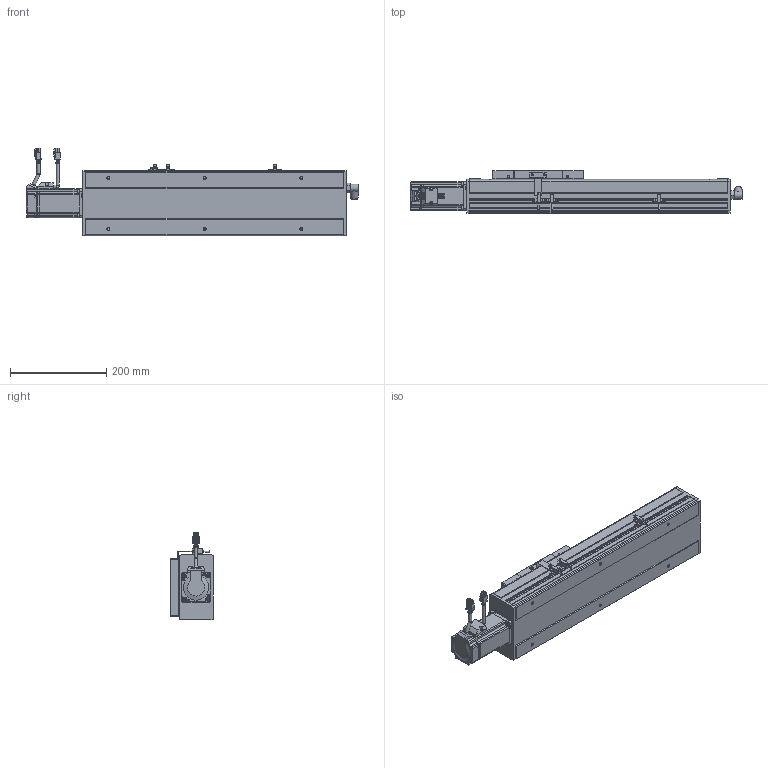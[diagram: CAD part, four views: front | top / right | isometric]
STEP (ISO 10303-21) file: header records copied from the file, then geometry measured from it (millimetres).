
FILE_DESCRIPTION(/* description */ ('STEP AP214'),/* implementation_level */ '2;1');
FILE_NAME(/* name */ 'PSC140-L05-S250-BC-P40-C1-N(0)',/* time_stamp */ '2022-06-13T03:13:18+02:00',/* author */ ('License CC BY-ND 4.0'),/* organization */ ('CADENAS'),/* preprocessor_version */ 'ST-DEVELOPER v18.102',/* originating_system */ 'PARTsolutions',/* authorisation */ ' ');
FILE_SCHEMA (('AUTOMOTIVE_DESIGN {1 0 10303 214 3 1 1}'));
Length unit declared in the file: millimetre
Products named in the file (10): PSC140-L05-S250-BC-P40-C1-N(0); P40-s2; P40-c2; P40-s1; P40-c1; P40-p1; PSC140-sensor; PSC140-BC-SLIDER; PSC140-S250-BC-P40-C1_BODY1; PSC140-L05-S250-BC-P40-C1-N(0)_dummy
Assembly tree (11 placements, depth 2):
  PSC140-L05-S250-BC-P40-C1-N(0)
    P40-s2
    P40-c2
    P40-s1
    P40-c1
    P40-p1
    PSC140-sensor  x3
    PSC140-BC-SLIDER
    PSC140-S250-BC-P40-C1_BODY1
    PSC140-L05-S250-BC-P40-C1-N(0)_dummy
Bounding box: 689 x 91 x 182.48 mm (x, y, z)
Volume: 5938333.5 mm3; surface area: 402264.9 mm2
Topology: 10 solids, 10 shells, 1232 faces, 3190 edges, 2109 vertices
Faces by surface type: plane 860, cylinder 311, cone 42, torus 19
Full cylindrical faces by diameter (mm): 1 x8, 2.6 x10, 2.8 x3, 3.3 x8, 4.5 x12, 4.6 x3, 4.917 x10, 5 x4, 5.5 x8, 6 x10, 6.08 x4, 7 x10, 9 x2, 10 x1, 11 x1, 13.74 x1, 14 x1, 16.4 x2, 16.5 x1, 19.98 x1, 31.98 x1, 35.5 x1, 50 x2
Entity records: 34118 total; most frequent: CARTESIAN_POINT 5965, DIRECTION 5731, ORIENTED_EDGE 5546, EDGE_CURVE 2773, LINE 2109, VECTOR 2109, VERTEX_POINT 1930, AXIS2_PLACEMENT_3D 1811
